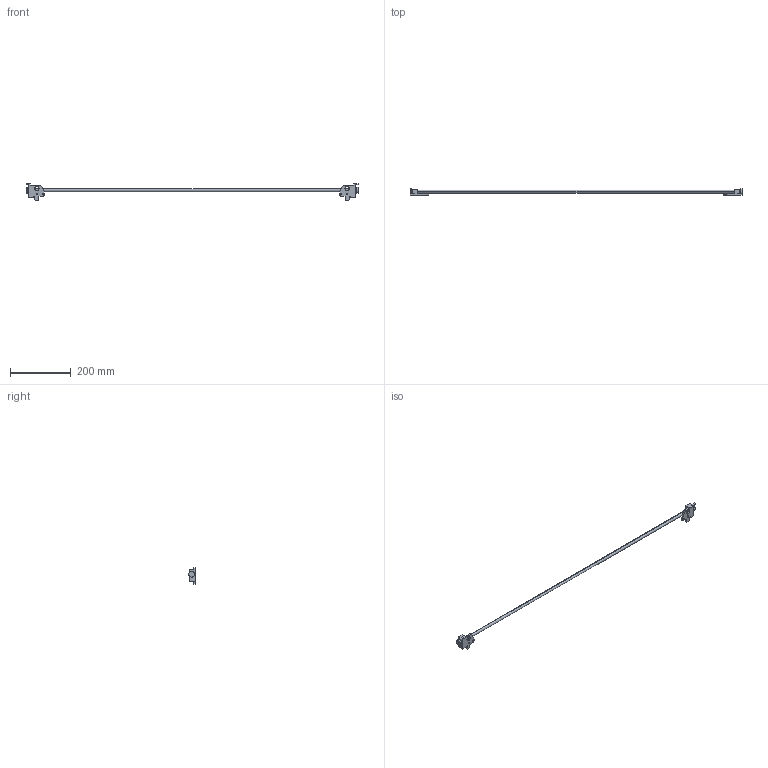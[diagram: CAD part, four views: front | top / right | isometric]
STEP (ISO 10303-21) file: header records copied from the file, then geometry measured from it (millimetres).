
FILE_DESCRIPTION (( 'STEP AP214' ), '1' );
FILE_NAME ('Seitenstabilisator-Set_KAB-1100.step', '2010-09-22T11:14:51', ( 'grass' ), ( '' ), 'SwSTEP 2.0', 'SolidWorks 2010', '' );
FILE_SCHEMA (( 'AUTOMOTIVE_DESIGN' ));
Length unit declared in the file: millimetre
Products named in the file (1): Seitenstabilisator-Set_KAB-1100
Bounding box: 1093 x 21.55 x 55.1 mm (x, y, z)
Volume: 126014.8 mm3; surface area: 48319.4 mm2
Topology: 1 solids, 1 shells, 66 faces, 174 edges, 116 vertices
Faces by surface type: plane 40, cylinder 26
Entity records: 2108 total; most frequent: DIRECTION 360, CARTESIAN_POINT 357, ORIENTED_EDGE 348, EDGE_CURVE 174, LINE 122, VECTOR 122, AXIS2_PLACEMENT_3D 119, VERTEX_POINT 116
